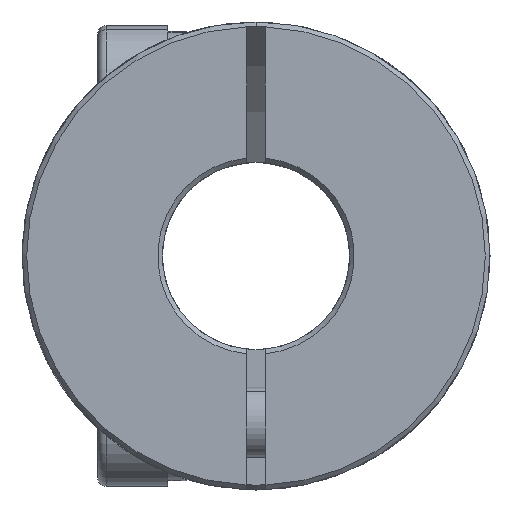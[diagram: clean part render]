
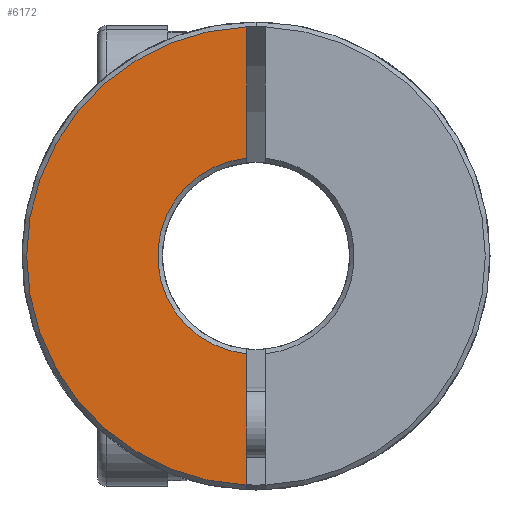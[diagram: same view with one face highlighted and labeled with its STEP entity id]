
A CAD part, front view. The second image highlights one B-rep face of the part: STEP entity #6172.
In plain terms, the highlighted planar face has unit normal (0, -1, 0).
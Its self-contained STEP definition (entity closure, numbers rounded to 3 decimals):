
#20 = EDGE_LOOP ( 'NONE', ( #5542, #3865, #4828, #2058 ) ) ;
#77 = CARTESIAN_POINT ( 'NONE',  ( -0.4, -17.5, 0. ) ) ;
#156 = VERTEX_POINT ( 'NONE', #946 ) ;
#402 = EDGE_CURVE ( 'NONE', #156, #3592, #1389, .T. ) ;
#456 = CARTESIAN_POINT ( 'NONE',  ( -0.4, -17.5, 9.792 ) ) ;
#643 = CARTESIAN_POINT ( 'NONE',  ( 0., -17.5, 0. ) ) ;
#946 = CARTESIAN_POINT ( 'NONE',  ( -0.4, -17.5, -4.181 ) ) ;
#1075 = EDGE_CURVE ( 'NONE', #156, #2684, #2021, .T. ) ;
#1389 = CIRCLE ( 'NONE', #1850, 4.2 ) ;
#1457 = DIRECTION ( 'NONE',  ( 0., 0., 1. ) ) ;
#1560 = CARTESIAN_POINT ( 'NONE',  ( -0.4, -17.5, 4.181 ) ) ;
#1640 = AXIS2_PLACEMENT_3D ( 'NONE', #4060, #6911, #6892 ) ;
#1641 = CARTESIAN_POINT ( 'NONE',  ( -0.4, -17.5, 0. ) ) ;
#1850 = AXIS2_PLACEMENT_3D ( 'NONE', #643, #6992, #4623 ) ;
#2021 = LINE ( 'NONE', #1641, #2983 ) ;
#2052 = CARTESIAN_POINT ( 'NONE',  ( 0., -17.5, 0. ) ) ;
#2058 = ORIENTED_EDGE ( 'NONE', *, *, #402, .T. ) ;
#2203 = EDGE_CURVE ( 'NONE', #4113, #2684, #7151, .T. ) ;
#2281 = DIRECTION ( 'NONE',  ( 0., 0., -1. ) ) ;
#2309 = PLANE ( 'NONE',  #1640 ) ;
#2684 = VERTEX_POINT ( 'NONE', #5984 ) ;
#2908 = DIRECTION ( 'NONE',  ( 0., 0., -1. ) ) ;
#2983 = VECTOR ( 'NONE', #2281, 1000. ) ;
#3237 = VECTOR ( 'NONE', #2908, 1000. ) ;
#3253 = DIRECTION ( 'NONE',  ( 0., -1., 0. ) ) ;
#3592 = VERTEX_POINT ( 'NONE', #1560 ) ;
#3775 = FACE_OUTER_BOUND ( 'NONE', #20, .T. ) ;
#3865 = ORIENTED_EDGE ( 'NONE', *, *, #2203, .T. ) ;
#4060 = CARTESIAN_POINT ( 'NONE',  ( 0., -17.5, 0. ) ) ;
#4113 = VERTEX_POINT ( 'NONE', #456 ) ;
#4529 = EDGE_CURVE ( 'NONE', #4113, #3592, #6319, .T. ) ;
#4623 = DIRECTION ( 'NONE',  ( 0., 0., 1. ) ) ;
#4828 = ORIENTED_EDGE ( 'NONE', *, *, #1075, .F. ) ;
#5335 = AXIS2_PLACEMENT_3D ( 'NONE', #2052, #3253, #1457 ) ;
#5542 = ORIENTED_EDGE ( 'NONE', *, *, #4529, .F. ) ;
#5984 = CARTESIAN_POINT ( 'NONE',  ( -0.4, -17.5, -9.792 ) ) ;
#6172 = ADVANCED_FACE ( 'NONE', ( #3775 ), #2309, .F. ) ;
#6319 = LINE ( 'NONE', #77, #3237 ) ;
#6892 = DIRECTION ( 'NONE',  ( 0., 0., 1. ) ) ;
#6911 = DIRECTION ( 'NONE',  ( 0., 1., 0. ) ) ;
#6992 = DIRECTION ( 'NONE',  ( 0., 1., 0. ) ) ;
#7151 = CIRCLE ( 'NONE', #5335, 9.8 ) ;
